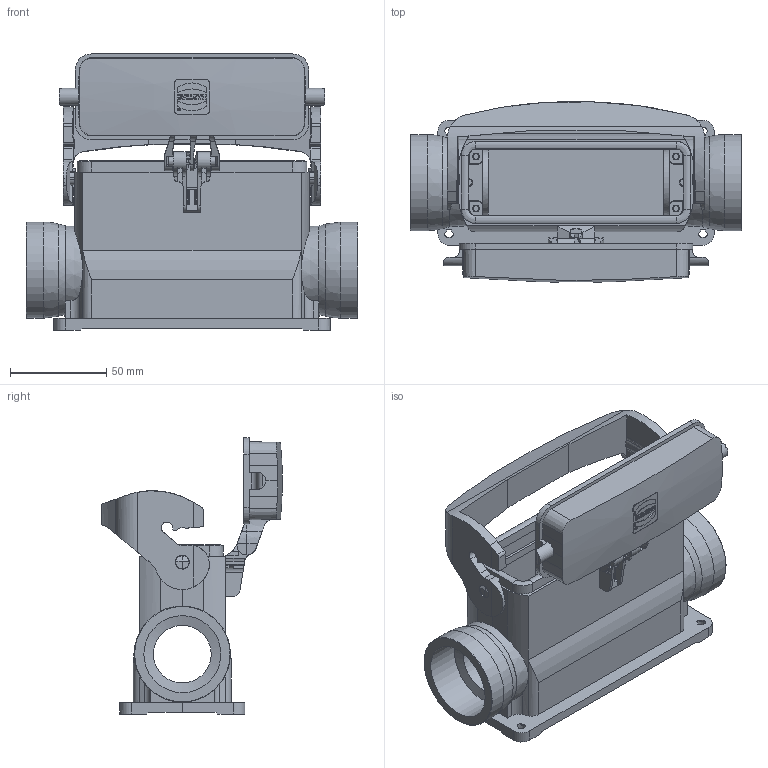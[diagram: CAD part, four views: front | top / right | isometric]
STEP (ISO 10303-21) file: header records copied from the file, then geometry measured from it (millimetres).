
FILE_DESCRIPTION(/* description */ (''),/* implementation_level */ '2;1');
FILE_NAME(/* name */ '100778499ugm000_c.stp',/* time_stamp */ '2022-03-12T07:53:17+01:00',/* author */ (''),/* organization */ (''),/* preprocessor_version */ 'ST-DEVELOPER v16.7',/* originating_system */ 'SIEMENS PLM Software NX 1911',/* authorisation */ '');
FILE_SCHEMA (('AUTOMOTIVE_DESIGN { 1 0 10303 214 3 1 1 1 }'));
Length unit declared in the file: millimetre
Products named in the file (1): 100778499ugm000_c
Bounding box: 172.2 x 93.81 x 143.5 mm (x, y, z)
Volume: 63982.5 mm3; surface area: 126467.7 mm2
Topology: 2 solids, 476 shells, 829 faces, 4403 edges, 4869 vertices
Faces by surface type: plane 550, cylinder 185, cone 58, bspline 23, extrusion 7, torus 6
Full cylindrical faces by diameter (mm): 1.006 x1, 1.477 x1, 3 x4, 3.5 x4, 4.8 x2, 7.2 x2, 30 x2, 40 x2, 49.95 x2
Entity records: 56104 total; most frequent: CARTESIAN_POINT 12978, DIRECTION 6016, ORIENTED_EDGE 4496, EDGE_CURVE 3519, VERTEX_POINT 3184, VECTOR 2626, LINE 2619, PRESENTATION_STYLE_ASSIGNMENT 2140
